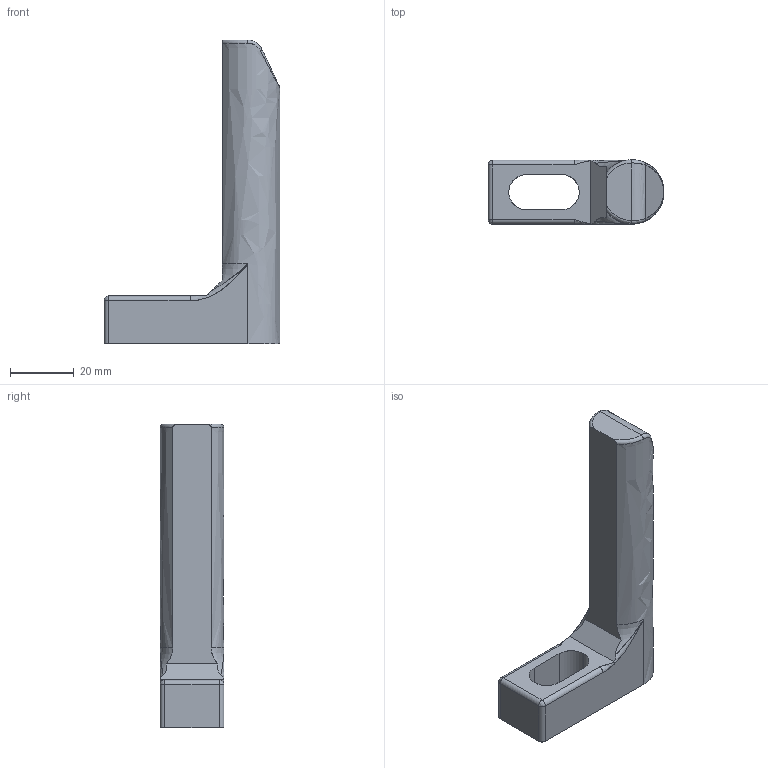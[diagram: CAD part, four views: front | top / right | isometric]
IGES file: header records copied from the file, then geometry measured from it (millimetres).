
Start section: START RECORD GO HERE.
Global section: file name: 704-4.igs; native system: DASSAULT SYSTEMES CATIA V5 R20 - www.3ds.com; preprocessor: CATIA Version 5 Release 20 ; author: Utente; organization: NB04-ASUS; date: 20201129.132603; units: millimetre
Bounding box: 55 x 20 x 95 mm (x, y, z)
Surface area: 9365.3 mm2 (no closed solid volume)
Topology: 0 solids, 0 shells, 35 faces, 178 edges, 174 vertices
Faces by surface type: revolution 18, plane 11, bspline 6
